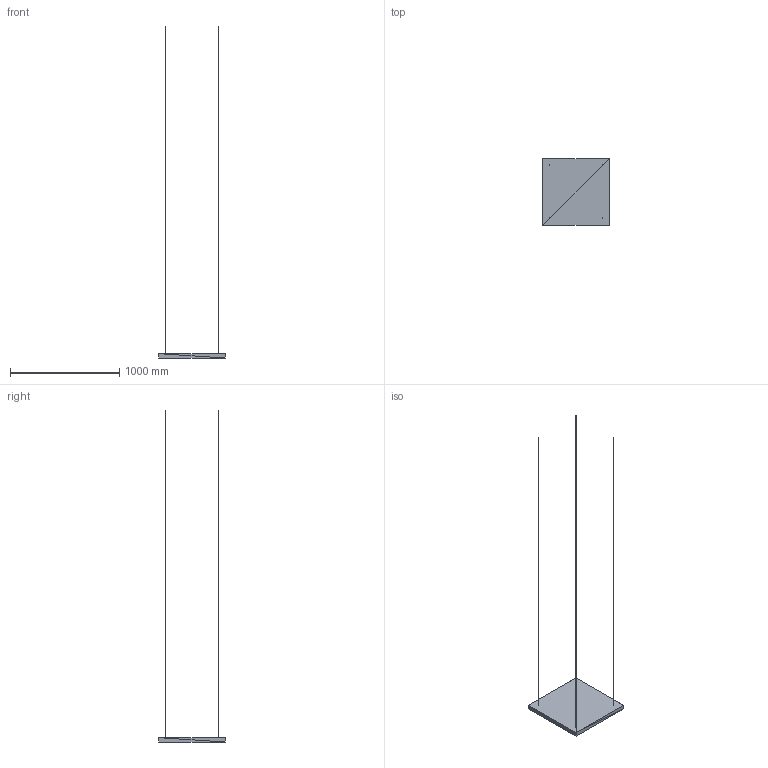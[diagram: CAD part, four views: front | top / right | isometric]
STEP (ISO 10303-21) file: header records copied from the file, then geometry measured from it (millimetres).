
FILE_DESCRIPTION(('ISINAC STEP AP214'),'2;1');
FILE_NAME('ISINAC_C.610_40mm_COLGADO','2026-05-03T10:49:19',('ISINAC'),('www.isinac.com'),'ISINAC BIM Generator 1.0','','');
FILE_SCHEMA(('AUTOMOTIVE_DESIGN'));
Length unit declared in the file: millimetre
Products named in the file (1): ISINAC_C.610_40mm_COLGADO
Bounding box: 610 x 610 x 3040 mm (x, y, z)
Surface area: 949846 mm2 (no closed solid volume)
Topology: 0 solids, 92 shells, 92 faces, 276 edges, 276 vertices
Faces by surface type: plane 92
Entity records: 1025 total; most frequent: CARTESIAN_POINT 368, DIRECTION 184, POLY_LOOP 92, FACE_OUTER_BOUND 92, AXIS2_PLACEMENT_3D 92, PLANE 92, FACE_SURFACE 92, CLOSED_SHELL 1
